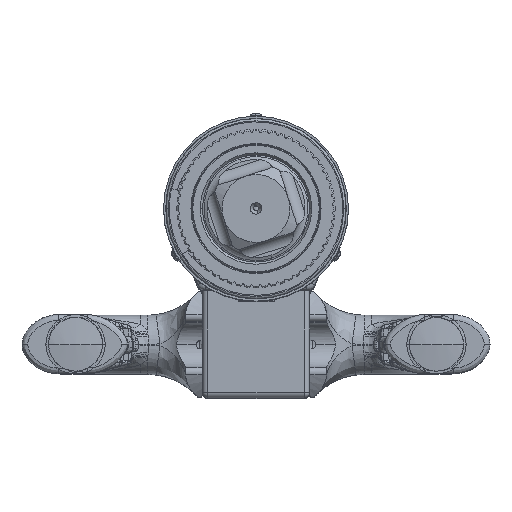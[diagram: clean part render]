
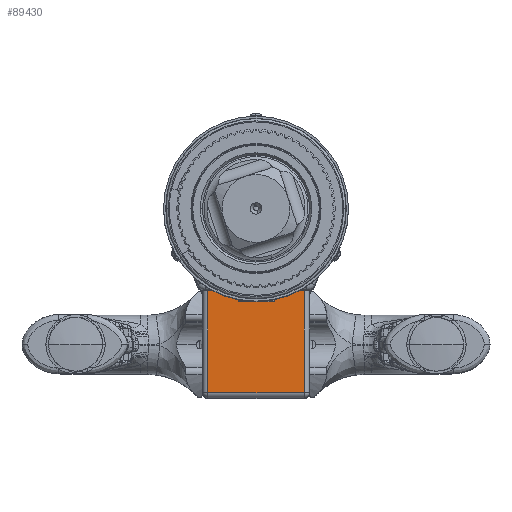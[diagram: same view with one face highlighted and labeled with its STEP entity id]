
A CAD part, top view. The second image highlights one B-rep face of the part: STEP entity #89430.
In plain terms, the highlighted planar face has unit normal (0, 0, 1).
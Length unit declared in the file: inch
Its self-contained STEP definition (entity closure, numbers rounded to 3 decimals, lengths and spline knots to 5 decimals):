
#3142 = EDGE_CURVE ( 'NONE', #58556, #151328, #74144, .T. ) ;
#6364 = VECTOR ( 'NONE', #12754, 39.37008 ) ;
#8232 = DIRECTION ( 'NONE',  ( 1., 0., 0. ) ) ;
#10950 = CARTESIAN_POINT ( 'NONE',  ( -0.375, -2.04, -6.97 ) ) ;
#12505 = VECTOR ( 'NONE', #28044, 39.37008 ) ;
#12754 = DIRECTION ( 'NONE',  ( 0., 1., 0. ) ) ;
#13481 = CARTESIAN_POINT ( 'NONE',  ( -1.0625, -4.175, -6.97 ) ) ;
#13574 = CARTESIAN_POINT ( 'NONE',  ( 0.375, -1.8, -6.97 ) ) ;
#17679 = CARTESIAN_POINT ( 'NONE',  ( 0.375, -1.8, -6.97 ) ) ;
#18552 = VERTEX_POINT ( 'NONE', #162679 ) ;
#19701 = CARTESIAN_POINT ( 'NONE',  ( -1.0625, -1.8, -6.97 ) ) ;
#21573 = EDGE_LOOP ( 'NONE', ( #151687, #91924, #101304, #25438, #135432, #84292, #61233, #110029 ) ) ;
#25438 = ORIENTED_EDGE ( 'NONE', *, *, #118984, .T. ) ;
#26761 = LINE ( 'NONE', #13574, #6364 ) ;
#28044 = DIRECTION ( 'NONE',  ( 0., -1., 0. ) ) ;
#30569 = EDGE_CURVE ( 'NONE', #41050, #141909, #26761, .T. ) ;
#35822 = LINE ( 'NONE', #13481, #123682 ) ;
#38904 = VECTOR ( 'NONE', #139367, 39.37008 ) ;
#41050 = VERTEX_POINT ( 'NONE', #127797 ) ;
#51225 = EDGE_CURVE ( 'NONE', #151328, #18552, #66710, .T. ) ;
#51568 = EDGE_CURVE ( 'NONE', #124467, #102274, #52913, .T. ) ;
#52249 = EDGE_CURVE ( 'NONE', #18552, #141909, #152586, .T. ) ;
#52913 = LINE ( 'NONE', #53704, #12505 ) ;
#53704 = CARTESIAN_POINT ( 'NONE',  ( -0.375, -1.8, -6.97 ) ) ;
#54790 = VECTOR ( 'NONE', #98628, 39.37008 ) ;
#58556 = VERTEX_POINT ( 'NONE', #91288 ) ;
#59414 = VERTEX_POINT ( 'NONE', #19701 ) ;
#59954 = CARTESIAN_POINT ( 'NONE',  ( -0.375, -1.8, -6.97 ) ) ;
#61233 = ORIENTED_EDGE ( 'NONE', *, *, #51225, .T. ) ;
#62538 = DIRECTION ( 'NONE',  ( 1., 0., 0. ) ) ;
#66710 = LINE ( 'NONE', #92309, #129711 ) ;
#67268 = CARTESIAN_POINT ( 'NONE',  ( 1.0625, -4.05, -6.97 ) ) ;
#70600 = LINE ( 'NONE', #10950, #54790 ) ;
#74144 = LINE ( 'NONE', #74964, #158076 ) ;
#74964 = CARTESIAN_POINT ( 'NONE',  ( 1.1875, -4.05, -6.97 ) ) ;
#78259 = AXIS2_PLACEMENT_3D ( 'NONE', #133832, #97554, #8232 ) ;
#82723 = PLANE ( 'NONE',  #78259 ) ;
#84292 = ORIENTED_EDGE ( 'NONE', *, *, #3142, .T. ) ;
#88999 = CARTESIAN_POINT ( 'NONE',  ( -1.1875, -1.8, -6.97 ) ) ;
#89430 = ADVANCED_FACE ( 'NONE', ( #131409 ), #82723, .T. ) ;
#91288 = CARTESIAN_POINT ( 'NONE',  ( -1.0625, -4.05, -6.97 ) ) ;
#91924 = ORIENTED_EDGE ( 'NONE', *, *, #149844, .F. ) ;
#92309 = CARTESIAN_POINT ( 'NONE',  ( 1.0625, -1.8, -6.97 ) ) ;
#92458 = EDGE_CURVE ( 'NONE', #59414, #58556, #35822, .T. ) ;
#97554 = DIRECTION ( 'NONE',  ( 0., 0., 1. ) ) ;
#98628 = DIRECTION ( 'NONE',  ( 1., 0., 0. ) ) ;
#101304 = ORIENTED_EDGE ( 'NONE', *, *, #51568, .F. ) ;
#102274 = VERTEX_POINT ( 'NONE', #109079 ) ;
#109079 = CARTESIAN_POINT ( 'NONE',  ( -0.375, -2.04, -6.97 ) ) ;
#110029 = ORIENTED_EDGE ( 'NONE', *, *, #52249, .T. ) ;
#117910 = DIRECTION ( 'NONE',  ( 0., 1., 0. ) ) ;
#118522 = VECTOR ( 'NONE', #136924, 39.37008 ) ;
#118984 = EDGE_CURVE ( 'NONE', #124467, #59414, #147466, .T. ) ;
#122884 = CARTESIAN_POINT ( 'NONE',  ( -1.1875, -1.8, -6.97 ) ) ;
#123682 = VECTOR ( 'NONE', #139106, 39.37008 ) ;
#124467 = VERTEX_POINT ( 'NONE', #59954 ) ;
#127797 = CARTESIAN_POINT ( 'NONE',  ( 0.375, -2.04, -6.97 ) ) ;
#129711 = VECTOR ( 'NONE', #117910, 39.37008 ) ;
#131409 = FACE_OUTER_BOUND ( 'NONE', #21573, .T. ) ;
#133832 = CARTESIAN_POINT ( 'NONE',  ( 0., -2.9875, -6.97 ) ) ;
#135432 = ORIENTED_EDGE ( 'NONE', *, *, #92458, .T. ) ;
#136924 = DIRECTION ( 'NONE',  ( -1., 0., 0. ) ) ;
#139106 = DIRECTION ( 'NONE',  ( 0., -1., 0. ) ) ;
#139367 = DIRECTION ( 'NONE',  ( -1., 0., 0. ) ) ;
#141909 = VERTEX_POINT ( 'NONE', #17679 ) ;
#147466 = LINE ( 'NONE', #122884, #118522 ) ;
#149844 = EDGE_CURVE ( 'NONE', #102274, #41050, #70600, .T. ) ;
#151328 = VERTEX_POINT ( 'NONE', #67268 ) ;
#151687 = ORIENTED_EDGE ( 'NONE', *, *, #30569, .F. ) ;
#152586 = LINE ( 'NONE', #88999, #38904 ) ;
#158076 = VECTOR ( 'NONE', #62538, 39.37008 ) ;
#162679 = CARTESIAN_POINT ( 'NONE',  ( 1.0625, -1.8, -6.97 ) ) ;
